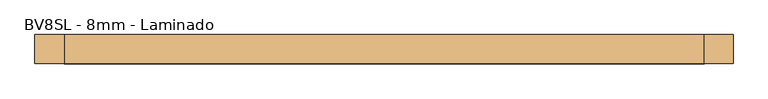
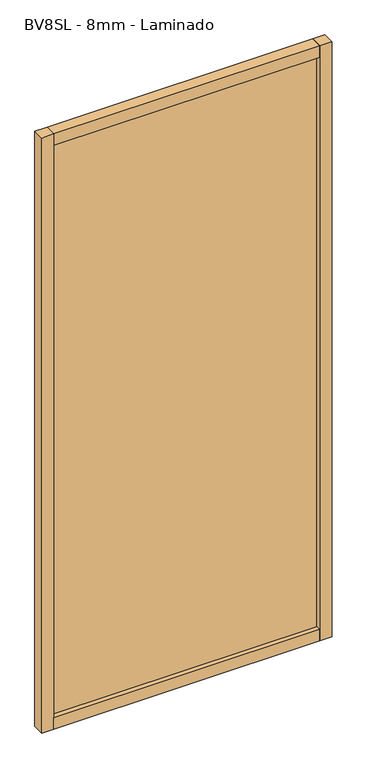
"""IFC4 building model written with IfcOpenShell, lengths in millimetres: door geometry, Mobiliário_Mobiliário de Escritório_Painel Vidro Simples - BVST e BVSL (Completo)_Marelli : BV8SL - 8mm - Laminado."""

from ifc_helpers import new_model, si_unit, frame, origin, origin_with_axes, place, context, project, spatial, polyline, outline, extrude, source, transform, mapped, element, save


def bv8sl_8mm_laminado_ab84e5fa(model_context):
    return source(origin(), model_context, "Body", "SweptSolid", [
        extrude(outline(polyline([(25.0, 0.0), (-25.0, 0.0), (-25.0, 50.0), (-4.0, 50.0), (-4.0, 30.0), (4.0, 30.0), (4.0, 50.0), (25.0, 50.0), (25.0, 0.0)])), frame((-550.0, 0.0, 0.0), z_axis=(1.0, 0.0, 0.0), x_axis=(0.0, 1.0, 0.0)), (0.0, 0.0, 1.0), 1100.0),
        extrude(outline(polyline([(-600.0, -25.0), (-600.0, 25.0), (-550.0, 25.0), (-550.0, -25.0), (-600.0, -25.0)])), origin_with_axes(), (0.0, 0.0, 1.0), 2600.0),
        extrude(outline(polyline([(600.0, -25.0), (550.0, -25.0), (550.0, 25.0), (600.0, 25.0), (600.0, -25.0)])), origin_with_axes(), (0.0, 0.0, 1.0), 2600.0),
        extrude(outline(polyline([(550.0, 4.0), (550.0, -4.0), (-550.0, -4.0), (-550.0, 4.0), (550.0, 4.0)])), frame((0.0, 0.0, 30.0), z_axis=(0.0, 0.0, 1.0), x_axis=(1.0, 0.0, 0.0)), (0.0, 0.0, 1.0), 2540.0),
        extrude(outline(polyline([(25.0, 2600.0), (25.0, 2550.0), (5.0, 2550.0), (5.0, 2570.0), (-5.0, 2570.0), (-5.0, 2550.0), (-25.0, 2550.0), (-25.0, 2600.0), (25.0, 2600.0)])), frame((-550.0, 0.0, 0.0), z_axis=(1.0, 0.0, 0.0), x_axis=(0.0, 1.0, 0.0)), (0.0, 0.0, 1.0), 1100.0),
    ])


if __name__ == "__main__":
    model = new_model("IFC4")
    model_context = context("Model", 3, world=origin())
    ifc_project = project(units=[si_unit("LENGTHUNIT", "METRE", prefix="MILLI")], contexts=[model_context])
    site = spatial("IfcSite", under=ifc_project)
    building = spatial("IfcBuilding", under=site)
    placement = place(None, origin())
    bv8sl_8mm_laminado_shape = bv8sl_8mm_laminado_ab84e5fa(model_context)
    element("IfcDoor", 1, ObjectType="Mobiliário_Mobiliário de Escritório_Painel Vidro Simples - BVST e BVSL (Completo)_Marelli : BV8SL - 8mm - Laminado", at=placement, inside=building, context=model_context, shape_type="MappedRepresentation", body=[
        mapped(bv8sl_8mm_laminado_shape, transform((0.0, 0.0, 0.0), x_axis=(1.0, 0.0, 0.0), y_axis=(0.0, 1.0, 0.0), z_axis=(0.0, 0.0, 1.0))),
    ])
    save(model, "model.ifc")
